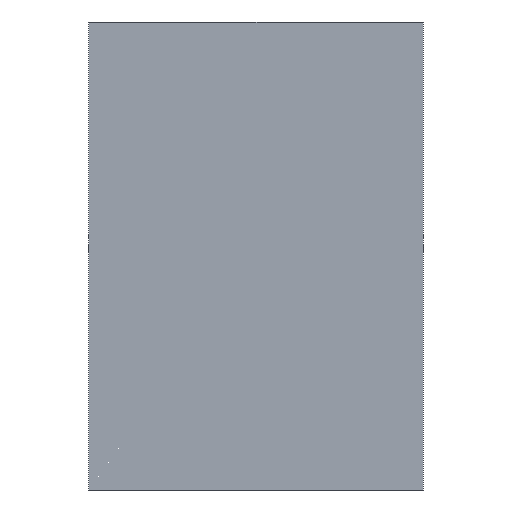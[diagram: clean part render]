
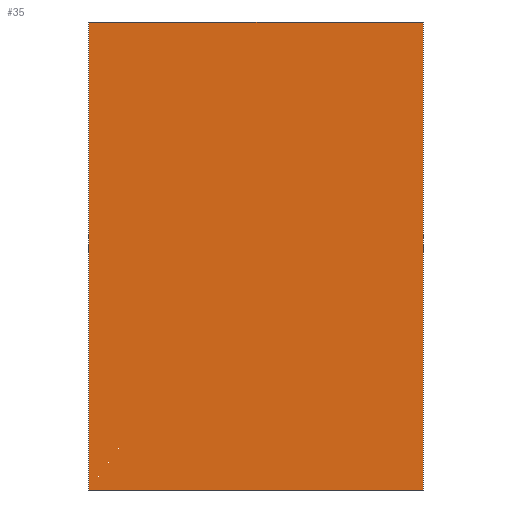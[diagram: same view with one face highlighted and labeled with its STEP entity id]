
A CAD part, left-side view. The second image highlights one B-rep face of the part: STEP entity #35.
In plain terms, the highlighted planar face has unit normal (-1, 0, 0).
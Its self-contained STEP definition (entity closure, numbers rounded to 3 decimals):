
#35 = ADVANCED_FACE('',(#36),#50,.F.);
#36 = FACE_BOUND('',#37,.F.);
#37 = EDGE_LOOP('',(#38,#73,#101,#129));
#38 = ORIENTED_EDGE('',*,*,#39,.F.);
#39 = EDGE_CURVE('',#40,#42,#44,.T.);
#40 = VERTEX_POINT('',#41);
#41 = CARTESIAN_POINT('',(-0.1,-10.,-14.));
#42 = VERTEX_POINT('',#43);
#43 = CARTESIAN_POINT('',(-0.1,-10.,14.));
#44 = SURFACE_CURVE('',#45,(#49,#61),.PCURVE_S1.);
#45 = LINE('',#46,#47);
#46 = CARTESIAN_POINT('',(-0.1,-10.,-14.));
#47 = VECTOR('',#48,1.);
#48 = DIRECTION('',(0.,0.,1.));
#49 = PCURVE('',#50,#55);
#50 = PLANE('',#51);
#51 = AXIS2_PLACEMENT_3D('',#52,#53,#54);
#52 = CARTESIAN_POINT('',(-0.1,-10.,-14.));
#53 = DIRECTION('',(1.,0.,-0.));
#54 = DIRECTION('',(0.,0.,1.));
#55 = DEFINITIONAL_REPRESENTATION('',(#56),#60);
#56 = LINE('',#57,#58);
#57 = CARTESIAN_POINT('',(0.,0.));
#58 = VECTOR('',#59,1.);
#59 = DIRECTION('',(1.,0.));
#60 = ( GEOMETRIC_REPRESENTATION_CONTEXT(2) 
PARAMETRIC_REPRESENTATION_CONTEXT() REPRESENTATION_CONTEXT('2D SPACE',''
  ) );
#61 = PCURVE('',#62,#67);
#62 = PLANE('',#63);
#63 = AXIS2_PLACEMENT_3D('',#64,#65,#66);
#64 = CARTESIAN_POINT('',(-0.1,-10.,-14.));
#65 = DIRECTION('',(-0.,1.,0.));
#66 = DIRECTION('',(0.,0.,1.));
#67 = DEFINITIONAL_REPRESENTATION('',(#68),#72);
#68 = LINE('',#69,#70);
#69 = CARTESIAN_POINT('',(0.,0.));
#70 = VECTOR('',#71,1.);
#71 = DIRECTION('',(1.,0.));
#72 = ( GEOMETRIC_REPRESENTATION_CONTEXT(2) 
PARAMETRIC_REPRESENTATION_CONTEXT() REPRESENTATION_CONTEXT('2D SPACE',''
  ) );
#73 = ORIENTED_EDGE('',*,*,#74,.T.);
#74 = EDGE_CURVE('',#40,#75,#77,.T.);
#75 = VERTEX_POINT('',#76);
#76 = CARTESIAN_POINT('',(-0.1,10.,-14.));
#77 = SURFACE_CURVE('',#78,(#82,#89),.PCURVE_S1.);
#78 = LINE('',#79,#80);
#79 = CARTESIAN_POINT('',(-0.1,-10.,-14.));
#80 = VECTOR('',#81,1.);
#81 = DIRECTION('',(-0.,1.,0.));
#82 = PCURVE('',#50,#83);
#83 = DEFINITIONAL_REPRESENTATION('',(#84),#88);
#84 = LINE('',#85,#86);
#85 = CARTESIAN_POINT('',(0.,0.));
#86 = VECTOR('',#87,1.);
#87 = DIRECTION('',(0.,-1.));
#88 = ( GEOMETRIC_REPRESENTATION_CONTEXT(2) 
PARAMETRIC_REPRESENTATION_CONTEXT() REPRESENTATION_CONTEXT('2D SPACE',''
  ) );
#89 = PCURVE('',#90,#95);
#90 = PLANE('',#91);
#91 = AXIS2_PLACEMENT_3D('',#92,#93,#94);
#92 = CARTESIAN_POINT('',(-0.1,-10.,-14.));
#93 = DIRECTION('',(0.,0.,1.));
#94 = DIRECTION('',(1.,0.,-0.));
#95 = DEFINITIONAL_REPRESENTATION('',(#96),#100);
#96 = LINE('',#97,#98);
#97 = CARTESIAN_POINT('',(0.,0.));
#98 = VECTOR('',#99,1.);
#99 = DIRECTION('',(0.,1.));
#100 = ( GEOMETRIC_REPRESENTATION_CONTEXT(2) 
PARAMETRIC_REPRESENTATION_CONTEXT() REPRESENTATION_CONTEXT('2D SPACE',''
  ) );
#101 = ORIENTED_EDGE('',*,*,#102,.T.);
#102 = EDGE_CURVE('',#75,#103,#105,.T.);
#103 = VERTEX_POINT('',#104);
#104 = CARTESIAN_POINT('',(-0.1,10.,14.));
#105 = SURFACE_CURVE('',#106,(#110,#117),.PCURVE_S1.);
#106 = LINE('',#107,#108);
#107 = CARTESIAN_POINT('',(-0.1,10.,-14.));
#108 = VECTOR('',#109,1.);
#109 = DIRECTION('',(0.,0.,1.));
#110 = PCURVE('',#50,#111);
#111 = DEFINITIONAL_REPRESENTATION('',(#112),#116);
#112 = LINE('',#113,#114);
#113 = CARTESIAN_POINT('',(0.,-20.));
#114 = VECTOR('',#115,1.);
#115 = DIRECTION('',(1.,0.));
#116 = ( GEOMETRIC_REPRESENTATION_CONTEXT(2) 
PARAMETRIC_REPRESENTATION_CONTEXT() REPRESENTATION_CONTEXT('2D SPACE',''
  ) );
#117 = PCURVE('',#118,#123);
#118 = PLANE('',#119);
#119 = AXIS2_PLACEMENT_3D('',#120,#121,#122);
#120 = CARTESIAN_POINT('',(-0.1,10.,-14.));
#121 = DIRECTION('',(-0.,1.,0.));
#122 = DIRECTION('',(0.,0.,1.));
#123 = DEFINITIONAL_REPRESENTATION('',(#124),#128);
#124 = LINE('',#125,#126);
#125 = CARTESIAN_POINT('',(0.,0.));
#126 = VECTOR('',#127,1.);
#127 = DIRECTION('',(1.,0.));
#128 = ( GEOMETRIC_REPRESENTATION_CONTEXT(2) 
PARAMETRIC_REPRESENTATION_CONTEXT() REPRESENTATION_CONTEXT('2D SPACE',''
  ) );
#129 = ORIENTED_EDGE('',*,*,#130,.F.);
#130 = EDGE_CURVE('',#42,#103,#131,.T.);
#131 = SURFACE_CURVE('',#132,(#136,#143),.PCURVE_S1.);
#132 = LINE('',#133,#134);
#133 = CARTESIAN_POINT('',(-0.1,-10.,14.));
#134 = VECTOR('',#135,1.);
#135 = DIRECTION('',(-0.,1.,0.));
#136 = PCURVE('',#50,#137);
#137 = DEFINITIONAL_REPRESENTATION('',(#138),#142);
#138 = LINE('',#139,#140);
#139 = CARTESIAN_POINT('',(28.,0.));
#140 = VECTOR('',#141,1.);
#141 = DIRECTION('',(0.,-1.));
#142 = ( GEOMETRIC_REPRESENTATION_CONTEXT(2) 
PARAMETRIC_REPRESENTATION_CONTEXT() REPRESENTATION_CONTEXT('2D SPACE',''
  ) );
#143 = PCURVE('',#144,#149);
#144 = PLANE('',#145);
#145 = AXIS2_PLACEMENT_3D('',#146,#147,#148);
#146 = CARTESIAN_POINT('',(-0.1,-10.,14.));
#147 = DIRECTION('',(0.,0.,1.));
#148 = DIRECTION('',(1.,0.,-0.));
#149 = DEFINITIONAL_REPRESENTATION('',(#150),#154);
#150 = LINE('',#151,#152);
#151 = CARTESIAN_POINT('',(0.,0.));
#152 = VECTOR('',#153,1.);
#153 = DIRECTION('',(0.,1.));
#154 = ( GEOMETRIC_REPRESENTATION_CONTEXT(2) 
PARAMETRIC_REPRESENTATION_CONTEXT() REPRESENTATION_CONTEXT('2D SPACE',''
  ) );
